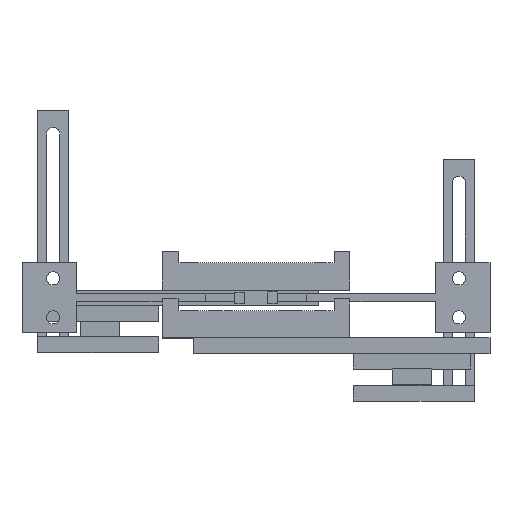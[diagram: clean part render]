
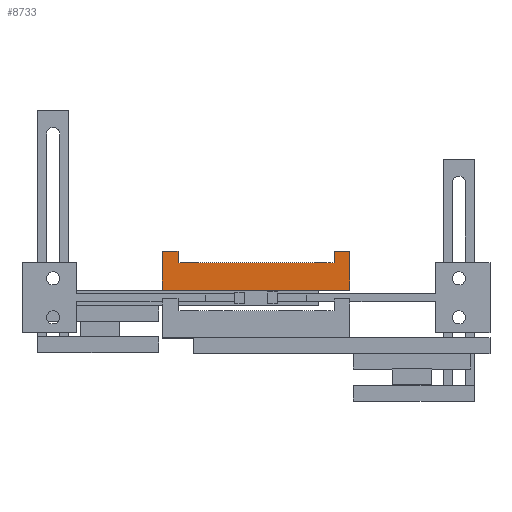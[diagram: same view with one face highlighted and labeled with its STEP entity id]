
A CAD part, top view. The second image highlights one B-rep face of the part: STEP entity #8733.
In plain terms, the highlighted planar face has unit normal (0, 0, 1).
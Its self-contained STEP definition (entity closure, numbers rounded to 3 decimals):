
#7808 = VERTEX_POINT('',#7809);
#7809 = CARTESIAN_POINT('',(24.,2.5,-28.));
#7816 = PLANE('',#7817);
#7817 = AXIS2_PLACEMENT_3D('',#7818,#7819,#7820);
#7818 = CARTESIAN_POINT('',(24.,2.5,-60.));
#7819 = DIRECTION('',(-1.,-0.,-0.));
#7820 = DIRECTION('',(0.,0.,-1.));
#7828 = PLANE('',#7829);
#7829 = AXIS2_PLACEMENT_3D('',#7830,#7831,#7832);
#7830 = CARTESIAN_POINT('',(24.,2.5,-60.));
#7831 = DIRECTION('',(-0.,1.,0.));
#7832 = DIRECTION('',(0.,0.,-1.));
#7869 = VERTEX_POINT('',#7870);
#7870 = CARTESIAN_POINT('',(24.,12.5,-28.));
#7884 = PLANE('',#7885);
#7885 = AXIS2_PLACEMENT_3D('',#7886,#7887,#7888);
#7886 = CARTESIAN_POINT('',(24.,12.5,-60.));
#7887 = DIRECTION('',(-0.,1.,0.));
#7888 = DIRECTION('',(0.,0.,-1.));
#7896 = EDGE_CURVE('',#7808,#7869,#7897,.T.);
#7897 = SURFACE_CURVE('',#7898,(#7902,#7909),.PCURVE_S1.);
#7898 = LINE('',#7899,#7900);
#7899 = CARTESIAN_POINT('',(24.,2.5,-28.));
#7900 = VECTOR('',#7901,1.);
#7901 = DIRECTION('',(-0.,1.,-0.));
#7902 = PCURVE('',#7816,#7903);
#7903 = DEFINITIONAL_REPRESENTATION('',(#7904),#7908);
#7904 = LINE('',#7905,#7906);
#7905 = CARTESIAN_POINT('',(-32.,-0.));
#7906 = VECTOR('',#7907,1.);
#7907 = DIRECTION('',(-0.,-1.));
#7908 = ( GEOMETRIC_REPRESENTATION_CONTEXT(2) 
PARAMETRIC_REPRESENTATION_CONTEXT() REPRESENTATION_CONTEXT('2D SPACE',''
  ) );
#7909 = PCURVE('',#7910,#7915);
#7910 = PLANE('',#7911);
#7911 = AXIS2_PLACEMENT_3D('',#7912,#7913,#7914);
#7912 = CARTESIAN_POINT('',(24.,2.5,-28.));
#7913 = DIRECTION('',(-0.,-0.,1.));
#7914 = DIRECTION('',(1.,0.,0.));
#7915 = DEFINITIONAL_REPRESENTATION('',(#7916),#7920);
#7916 = LINE('',#7917,#7918);
#7917 = CARTESIAN_POINT('',(0.,-0.));
#7918 = VECTOR('',#7919,1.);
#7919 = DIRECTION('',(-0.,1.));
#7920 = ( GEOMETRIC_REPRESENTATION_CONTEXT(2) 
PARAMETRIC_REPRESENTATION_CONTEXT() REPRESENTATION_CONTEXT('2D SPACE',''
  ) );
#7949 = EDGE_CURVE('',#7808,#7950,#7952,.T.);
#7950 = VERTEX_POINT('',#7951);
#7951 = CARTESIAN_POINT('',(-24.,2.5,-28.));
#7952 = SURFACE_CURVE('',#7953,(#7957,#7964),.PCURVE_S1.);
#7953 = LINE('',#7954,#7955);
#7954 = CARTESIAN_POINT('',(24.,2.5,-28.));
#7955 = VECTOR('',#7956,1.);
#7956 = DIRECTION('',(-1.,-0.,0.));
#7957 = PCURVE('',#7828,#7958);
#7958 = DEFINITIONAL_REPRESENTATION('',(#7959),#7963);
#7959 = LINE('',#7960,#7961);
#7960 = CARTESIAN_POINT('',(-32.,-0.));
#7961 = VECTOR('',#7962,1.);
#7962 = DIRECTION('',(-0.,1.));
#7963 = ( GEOMETRIC_REPRESENTATION_CONTEXT(2) 
PARAMETRIC_REPRESENTATION_CONTEXT() REPRESENTATION_CONTEXT('2D SPACE',''
  ) );
#7964 = PCURVE('',#7910,#7965);
#7965 = DEFINITIONAL_REPRESENTATION('',(#7966),#7970);
#7966 = LINE('',#7967,#7968);
#7967 = CARTESIAN_POINT('',(0.,-0.));
#7968 = VECTOR('',#7969,1.);
#7969 = DIRECTION('',(-1.,0.));
#7970 = ( GEOMETRIC_REPRESENTATION_CONTEXT(2) 
PARAMETRIC_REPRESENTATION_CONTEXT() REPRESENTATION_CONTEXT('2D SPACE',''
  ) );
#7986 = PLANE('',#7987);
#7987 = AXIS2_PLACEMENT_3D('',#7988,#7989,#7990);
#7988 = CARTESIAN_POINT('',(-24.,2.5,-60.));
#7989 = DIRECTION('',(-1.,-0.,-0.));
#7990 = DIRECTION('',(0.,0.,-1.));
#8567 = PLANE('',#8568);
#8568 = AXIS2_PLACEMENT_3D('',#8569,#8570,#8571);
#8569 = CARTESIAN_POINT('',(-20.,12.5,-60.));
#8570 = DIRECTION('',(-0.,1.,0.));
#8571 = DIRECTION('',(0.,0.,-1.));
#8595 = PLANE('',#8596);
#8596 = AXIS2_PLACEMENT_3D('',#8597,#8598,#8599);
#8597 = CARTESIAN_POINT('',(-20.,9.5,-60.));
#8598 = DIRECTION('',(-1.,-0.,0.));
#8599 = DIRECTION('',(0.,0.,-1.));
#8623 = PLANE('',#8624);
#8624 = AXIS2_PLACEMENT_3D('',#8625,#8626,#8627);
#8625 = CARTESIAN_POINT('',(24.,9.5,-60.));
#8626 = DIRECTION('',(-0.,1.,0.));
#8627 = DIRECTION('',(0.,0.,-1.));
#8651 = PLANE('',#8652);
#8652 = AXIS2_PLACEMENT_3D('',#8653,#8654,#8655);
#8653 = CARTESIAN_POINT('',(20.,9.5,-60.));
#8654 = DIRECTION('',(-1.,-0.,0.));
#8655 = DIRECTION('',(0.,0.,-1.));
#8690 = EDGE_CURVE('',#7869,#8691,#8693,.T.);
#8691 = VERTEX_POINT('',#8692);
#8692 = CARTESIAN_POINT('',(20.,12.5,-28.));
#8693 = SURFACE_CURVE('',#8694,(#8698,#8705),.PCURVE_S1.);
#8694 = LINE('',#8695,#8696);
#8695 = CARTESIAN_POINT('',(24.,12.5,-28.));
#8696 = VECTOR('',#8697,1.);
#8697 = DIRECTION('',(-1.,-0.,0.));
#8698 = PCURVE('',#7884,#8699);
#8699 = DEFINITIONAL_REPRESENTATION('',(#8700),#8704);
#8700 = LINE('',#8701,#8702);
#8701 = CARTESIAN_POINT('',(-32.,-0.));
#8702 = VECTOR('',#8703,1.);
#8703 = DIRECTION('',(-0.,1.));
#8704 = ( GEOMETRIC_REPRESENTATION_CONTEXT(2) 
PARAMETRIC_REPRESENTATION_CONTEXT() REPRESENTATION_CONTEXT('2D SPACE',''
  ) );
#8705 = PCURVE('',#7910,#8706);
#8706 = DEFINITIONAL_REPRESENTATION('',(#8707),#8711);
#8707 = LINE('',#8708,#8709);
#8708 = CARTESIAN_POINT('',(0.,10.));
#8709 = VECTOR('',#8710,1.);
#8710 = DIRECTION('',(-1.,0.));
#8711 = ( GEOMETRIC_REPRESENTATION_CONTEXT(2) 
PARAMETRIC_REPRESENTATION_CONTEXT() REPRESENTATION_CONTEXT('2D SPACE',''
  ) );
#8733 = ADVANCED_FACE('',(#8734),#7910,.T.);
#8734 = FACE_BOUND('',#8735,.F.);
#8735 = EDGE_LOOP('',(#8736,#8737,#8738,#8761,#8784,#8807,#8830,#8851));
#8736 = ORIENTED_EDGE('',*,*,#7896,.F.);
#8737 = ORIENTED_EDGE('',*,*,#7949,.T.);
#8738 = ORIENTED_EDGE('',*,*,#8739,.T.);
#8739 = EDGE_CURVE('',#7950,#8740,#8742,.T.);
#8740 = VERTEX_POINT('',#8741);
#8741 = CARTESIAN_POINT('',(-24.,12.5,-28.));
#8742 = SURFACE_CURVE('',#8743,(#8747,#8754),.PCURVE_S1.);
#8743 = LINE('',#8744,#8745);
#8744 = CARTESIAN_POINT('',(-24.,2.5,-28.));
#8745 = VECTOR('',#8746,1.);
#8746 = DIRECTION('',(-0.,1.,-0.));
#8747 = PCURVE('',#7910,#8748);
#8748 = DEFINITIONAL_REPRESENTATION('',(#8749),#8753);
#8749 = LINE('',#8750,#8751);
#8750 = CARTESIAN_POINT('',(-48.,0.));
#8751 = VECTOR('',#8752,1.);
#8752 = DIRECTION('',(-0.,1.));
#8753 = ( GEOMETRIC_REPRESENTATION_CONTEXT(2) 
PARAMETRIC_REPRESENTATION_CONTEXT() REPRESENTATION_CONTEXT('2D SPACE',''
  ) );
#8754 = PCURVE('',#7986,#8755);
#8755 = DEFINITIONAL_REPRESENTATION('',(#8756),#8760);
#8756 = LINE('',#8757,#8758);
#8757 = CARTESIAN_POINT('',(-32.,-0.));
#8758 = VECTOR('',#8759,1.);
#8759 = DIRECTION('',(-0.,-1.));
#8760 = ( GEOMETRIC_REPRESENTATION_CONTEXT(2) 
PARAMETRIC_REPRESENTATION_CONTEXT() REPRESENTATION_CONTEXT('2D SPACE',''
  ) );
#8761 = ORIENTED_EDGE('',*,*,#8762,.F.);
#8762 = EDGE_CURVE('',#8763,#8740,#8765,.T.);
#8763 = VERTEX_POINT('',#8764);
#8764 = CARTESIAN_POINT('',(-20.,12.5,-28.));
#8765 = SURFACE_CURVE('',#8766,(#8770,#8777),.PCURVE_S1.);
#8766 = LINE('',#8767,#8768);
#8767 = CARTESIAN_POINT('',(-20.,12.5,-28.));
#8768 = VECTOR('',#8769,1.);
#8769 = DIRECTION('',(-1.,-0.,0.));
#8770 = PCURVE('',#7910,#8771);
#8771 = DEFINITIONAL_REPRESENTATION('',(#8772),#8776);
#8772 = LINE('',#8773,#8774);
#8773 = CARTESIAN_POINT('',(-44.,10.));
#8774 = VECTOR('',#8775,1.);
#8775 = DIRECTION('',(-1.,0.));
#8776 = ( GEOMETRIC_REPRESENTATION_CONTEXT(2) 
PARAMETRIC_REPRESENTATION_CONTEXT() REPRESENTATION_CONTEXT('2D SPACE',''
  ) );
#8777 = PCURVE('',#8567,#8778);
#8778 = DEFINITIONAL_REPRESENTATION('',(#8779),#8783);
#8779 = LINE('',#8780,#8781);
#8780 = CARTESIAN_POINT('',(-32.,-0.));
#8781 = VECTOR('',#8782,1.);
#8782 = DIRECTION('',(-0.,1.));
#8783 = ( GEOMETRIC_REPRESENTATION_CONTEXT(2) 
PARAMETRIC_REPRESENTATION_CONTEXT() REPRESENTATION_CONTEXT('2D SPACE',''
  ) );
#8784 = ORIENTED_EDGE('',*,*,#8785,.F.);
#8785 = EDGE_CURVE('',#8786,#8763,#8788,.T.);
#8786 = VERTEX_POINT('',#8787);
#8787 = CARTESIAN_POINT('',(-20.,9.5,-28.));
#8788 = SURFACE_CURVE('',#8789,(#8793,#8800),.PCURVE_S1.);
#8789 = LINE('',#8790,#8791);
#8790 = CARTESIAN_POINT('',(-20.,9.5,-28.));
#8791 = VECTOR('',#8792,1.);
#8792 = DIRECTION('',(-0.,1.,0.));
#8793 = PCURVE('',#7910,#8794);
#8794 = DEFINITIONAL_REPRESENTATION('',(#8795),#8799);
#8795 = LINE('',#8796,#8797);
#8796 = CARTESIAN_POINT('',(-44.,7.));
#8797 = VECTOR('',#8798,1.);
#8798 = DIRECTION('',(0.,1.));
#8799 = ( GEOMETRIC_REPRESENTATION_CONTEXT(2) 
PARAMETRIC_REPRESENTATION_CONTEXT() REPRESENTATION_CONTEXT('2D SPACE',''
  ) );
#8800 = PCURVE('',#8595,#8801);
#8801 = DEFINITIONAL_REPRESENTATION('',(#8802),#8806);
#8802 = LINE('',#8803,#8804);
#8803 = CARTESIAN_POINT('',(-32.,-0.));
#8804 = VECTOR('',#8805,1.);
#8805 = DIRECTION('',(-0.,-1.));
#8806 = ( GEOMETRIC_REPRESENTATION_CONTEXT(2) 
PARAMETRIC_REPRESENTATION_CONTEXT() REPRESENTATION_CONTEXT('2D SPACE',''
  ) );
#8807 = ORIENTED_EDGE('',*,*,#8808,.F.);
#8808 = EDGE_CURVE('',#8809,#8786,#8811,.T.);
#8809 = VERTEX_POINT('',#8810);
#8810 = CARTESIAN_POINT('',(20.,9.5,-28.));
#8811 = SURFACE_CURVE('',#8812,(#8816,#8823),.PCURVE_S1.);
#8812 = LINE('',#8813,#8814);
#8813 = CARTESIAN_POINT('',(24.,9.5,-28.));
#8814 = VECTOR('',#8815,1.);
#8815 = DIRECTION('',(-1.,-0.,0.));
#8816 = PCURVE('',#7910,#8817);
#8817 = DEFINITIONAL_REPRESENTATION('',(#8818),#8822);
#8818 = LINE('',#8819,#8820);
#8819 = CARTESIAN_POINT('',(0.,7.));
#8820 = VECTOR('',#8821,1.);
#8821 = DIRECTION('',(-1.,0.));
#8822 = ( GEOMETRIC_REPRESENTATION_CONTEXT(2) 
PARAMETRIC_REPRESENTATION_CONTEXT() REPRESENTATION_CONTEXT('2D SPACE',''
  ) );
#8823 = PCURVE('',#8623,#8824);
#8824 = DEFINITIONAL_REPRESENTATION('',(#8825),#8829);
#8825 = LINE('',#8826,#8827);
#8826 = CARTESIAN_POINT('',(-32.,-0.));
#8827 = VECTOR('',#8828,1.);
#8828 = DIRECTION('',(-0.,1.));
#8829 = ( GEOMETRIC_REPRESENTATION_CONTEXT(2) 
PARAMETRIC_REPRESENTATION_CONTEXT() REPRESENTATION_CONTEXT('2D SPACE',''
  ) );
#8830 = ORIENTED_EDGE('',*,*,#8831,.T.);
#8831 = EDGE_CURVE('',#8809,#8691,#8832,.T.);
#8832 = SURFACE_CURVE('',#8833,(#8837,#8844),.PCURVE_S1.);
#8833 = LINE('',#8834,#8835);
#8834 = CARTESIAN_POINT('',(20.,9.5,-28.));
#8835 = VECTOR('',#8836,1.);
#8836 = DIRECTION('',(-0.,1.,0.));
#8837 = PCURVE('',#7910,#8838);
#8838 = DEFINITIONAL_REPRESENTATION('',(#8839),#8843);
#8839 = LINE('',#8840,#8841);
#8840 = CARTESIAN_POINT('',(-4.,7.));
#8841 = VECTOR('',#8842,1.);
#8842 = DIRECTION('',(0.,1.));
#8843 = ( GEOMETRIC_REPRESENTATION_CONTEXT(2) 
PARAMETRIC_REPRESENTATION_CONTEXT() REPRESENTATION_CONTEXT('2D SPACE',''
  ) );
#8844 = PCURVE('',#8651,#8845);
#8845 = DEFINITIONAL_REPRESENTATION('',(#8846),#8850);
#8846 = LINE('',#8847,#8848);
#8847 = CARTESIAN_POINT('',(-32.,-0.));
#8848 = VECTOR('',#8849,1.);
#8849 = DIRECTION('',(-0.,-1.));
#8850 = ( GEOMETRIC_REPRESENTATION_CONTEXT(2) 
PARAMETRIC_REPRESENTATION_CONTEXT() REPRESENTATION_CONTEXT('2D SPACE',''
  ) );
#8851 = ORIENTED_EDGE('',*,*,#8690,.F.);
